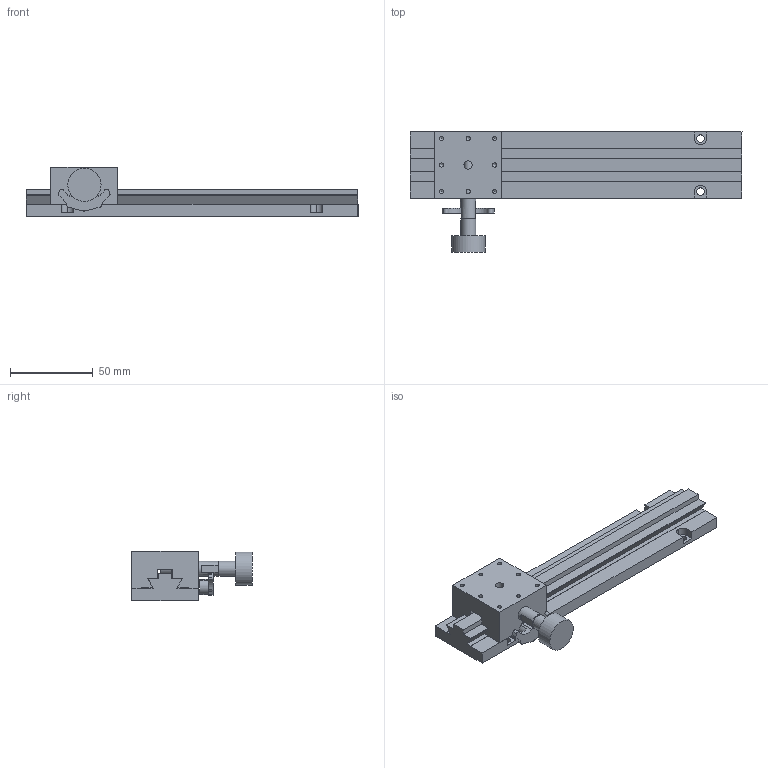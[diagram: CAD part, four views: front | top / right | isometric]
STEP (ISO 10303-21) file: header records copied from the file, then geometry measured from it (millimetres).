
FILE_DESCRIPTION( ( 'STEP AP203' ), '1' );
FILE_NAME( 'C:/3D-Trans/3D_BDLXR-40160+080811.step', '2008-08-11T08:13:10', ( ' ' ), ( ' ' ), 'XStep 1.0', ' ', ' ' );
FILE_SCHEMA( ( 'CONFIG_CONTROL_DESIGN' ) );
Length unit declared in the file: millimetre
Products named in the file (3): 1; 2; 3
Bounding box: 200 x 72.5 x 30 mm (x, y, z)
Volume: 118670.7 mm3; surface area: 37235.9 mm2
Topology: 3 solids, 3 shells, 140 faces, 370 edges, 244 vertices
Faces by surface type: plane 73, cylinder 59, cone 8
Full cylindrical faces by diameter (mm): 2.5 x16, 4 x1, 4.5 x6, 4.7 x1, 5 x2, 7.2 x2, 8.2 x1, 9 x2, 20 x1
Entity records: 4238 total; most frequent: CARTESIAN_POINT 794, DIRECTION 700, ORIENTED_EDGE 616, EDGE_CURVE 308, AXIS2_PLACEMENT_3D 256, VERTEX_POINT 232, EDGE_LOOP 201, LINE 188
